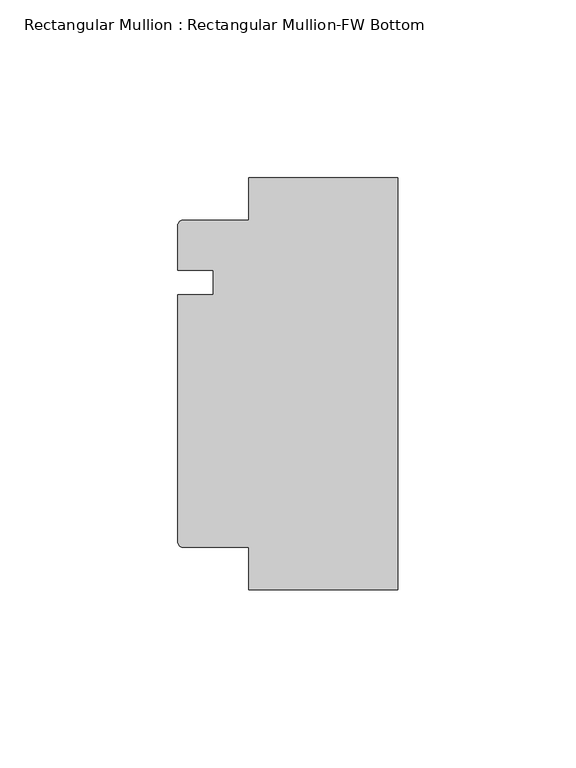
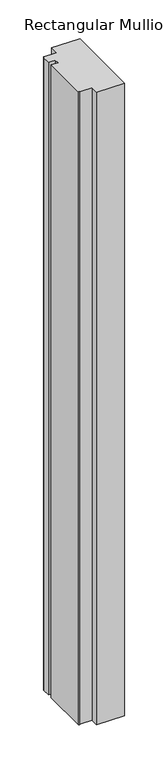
"""IFC4 building model written with IfcOpenShell, lengths in millimetres: member geometry, Rectangular Mullion : Rectangular Mullion-FW Bottom."""

from ifc_helpers import new_model, si_unit, point, frame, frame_2d, origin, place, context, project, spatial, polyline, circle_curve, trimmed, segment, composite_curve, outline, extrude, source, transform, mapped, element, save


def rectangular_mullion_rectangular_mullion_fw_bottom_a8f9fcf1(model_context):
    return source(origin(), model_context, "Body", "SweptSolid", [
        extrude(outline(composite_curve([segment(polyline([(-60.5201031, 0.0), (-42.0, 0.0), (-42.0, 12.0), (0.0, 12.0), (0.0, -104.0), (-42.0, -104.0), (-42.0, -92.0), (-60.5201031, -92.0)]), True, "CONTINUOUS"), segment(trimmed(circle_curve(frame_2d((-60.5201031, -90.5201031)), 1.4798969), [point((-60.5201031, -92.0))], [point((-62.0, -90.5201031))], False, "CARTESIAN"), True, "CONTINUOUS"), segment(polyline([(-62.0, -90.5201031), (-62.0, -21.0), (-52.0, -21.0), (-52.0, -14.0), (-62.0, -14.0), (-62.0, -1.4798969)]), True, "CONTINUOUS"), segment(trimmed(circle_curve(frame_2d((-60.5201031, -1.4798969)), 1.4798969), [point((-62.0, -1.4798969))], [point((-60.5201031, 0.0))], False, "CARTESIAN"), True, "CONTINUOUS")], self_intersect=False)), frame((0.0, 0.0, -1000.0), z_axis=(0.0, 0.0, 1.0), x_axis=(1.0, 0.0, 0.0)), (0.0, 0.0, 1.0), 1000.0),
    ])


if __name__ == "__main__":
    model = new_model("IFC4")
    model_context = context("Model", 3, world=origin())
    ifc_project = project(units=[si_unit("LENGTHUNIT", "METRE", prefix="MILLI")], contexts=[model_context])
    site = spatial("IfcSite", under=ifc_project)
    building = spatial("IfcBuilding", under=site)
    placement = place(None, origin())
    rectangular_mullion_rectangular_mullion_fw_bottom_shape = rectangular_mullion_rectangular_mullion_fw_bottom_a8f9fcf1(model_context)
    element("IfcMember", 1, ObjectType="Rectangular Mullion : Rectangular Mullion-FW Bottom", at=placement, inside=building, context=model_context, shape_type="MappedRepresentation", body=[
        mapped(rectangular_mullion_rectangular_mullion_fw_bottom_shape, transform((0.0, 0.0, 0.0), x_axis=(1.0, 0.0, 0.0), y_axis=(0.0, 1.0, 0.0), z_axis=(0.0, 0.0, 1.0))),
    ])
    save(model, "model.ifc")
